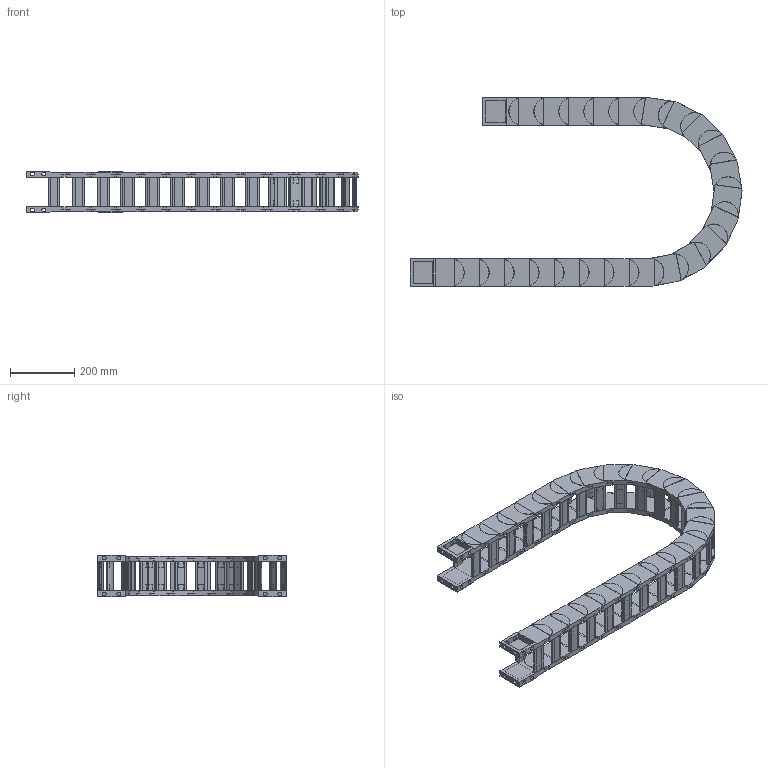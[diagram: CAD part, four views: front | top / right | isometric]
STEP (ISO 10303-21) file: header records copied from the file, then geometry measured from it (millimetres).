
FILE_DESCRIPTION((''),'2;1');
FILE_NAME('HD65-R250-ZPT_ASM','2022-06-18T10:55:02',('admin'),(''),'CREO PARAMETRIC BY PTC INC, 2021164','CREO PARAMETRIC BY PTC INC, 2021164','');
FILE_SCHEMA(('CONFIG_CONTROL_DESIGN','GEOMETRIC_VALIDATION_PROPERTIES_MIM'));
Length unit declared in the file: millimetre
Products named in the file (6): HD65; 65-50HDQSYP; HD65_ASM; H65-T1; H65-T2; HD65-R250-ZPT_ASM
Assembly tree (29 placements, depth 3):
  HD65-R250-ZPT_ASM
    HD65_ASM  x23
      HD65
      65-50HDQSYP
    H65-T1
    H65-T2
    65-50HDQSYP  x2
Bounding box: 1030.73 x 585.89 x 130.2 mm (x, y, z)
Volume: 6920437.1 mm3; surface area: 2077446.1 mm2
Topology: 100 solids, 100 shells, 1844 faces, 4858 edges, 3318 vertices
Faces by surface type: plane 1416, cylinder 428
Entity records: 8932 total; most frequent: CARTESIAN_POINT 1334, DIRECTION 1302, ORIENTED_EDGE 1212, EDGE_CURVE 606, AXIS2_PLACEMENT_3D 439, VECTOR 424, LINE 424, VERTEX_POINT 410
